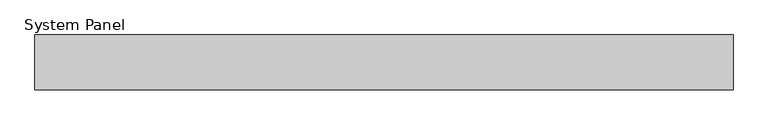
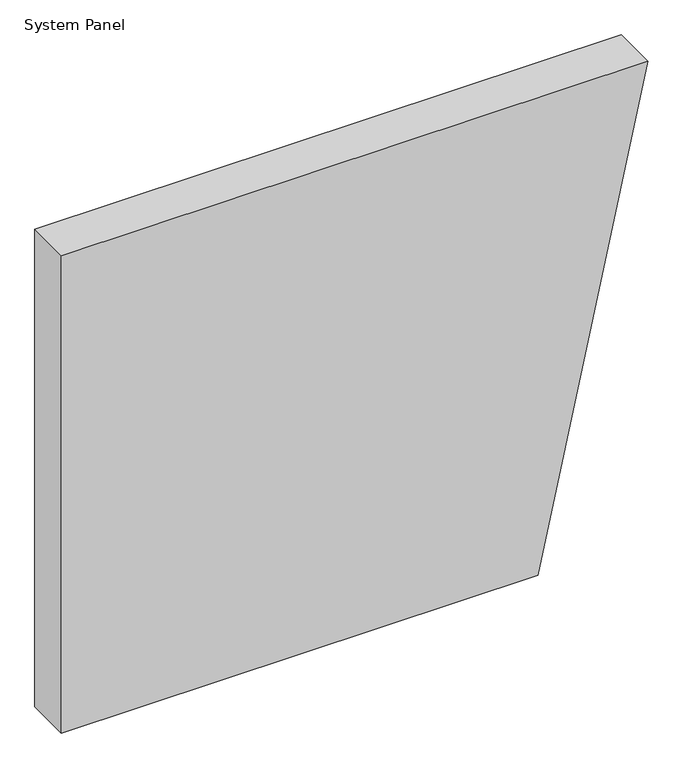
"""IFC4 building model written with IfcOpenShell, lengths in millimetres: plate geometry, System Panel : MetecnoPanel 100mm Horizontal - Plain Astro - PIR."""

from ifc_helpers import new_model, si_unit, frame, origin, place, context, project, spatial, polyline, outline, extrude, source, transform, mapped, element, save


def system_panel_4048a440(model_context):
    return source(origin(), model_context, "Body", "SweptSolid", [
        extrude(outline(polyline([(0.0, -639.1323567), (0.0, 400.0), (1100.0, 639.1323567), (1100.0, -639.1323567), (0.0, -639.1323567)])), frame((0.0, -100.0, 0.0), z_axis=(0.0, 1.0, 0.0), x_axis=(0.0, 0.0, 1.0)), (0.0, 0.0, 1.0), 100.0),
    ])


if __name__ == "__main__":
    model = new_model("IFC4")
    model_context = context("Model", 3, world=origin())
    ifc_project = project(units=[si_unit("LENGTHUNIT", "METRE", prefix="MILLI")], contexts=[model_context])
    site = spatial("IfcSite", under=ifc_project)
    building = spatial("IfcBuilding", under=site)
    placement = place(None, origin())
    system_panel_shape = system_panel_4048a440(model_context)
    element("IfcPlate", 1, ObjectType="System Panel : MetecnoPanel 100mm Horizontal - Plain Astro - PIR", at=placement, inside=building, context=model_context, shape_type="MappedRepresentation", body=[
        mapped(system_panel_shape, transform((0.0, 0.0, 0.0), x_axis=(1.0, 0.0, 0.0), y_axis=(0.0, 1.0, 0.0), z_axis=(0.0, 0.0, 1.0))),
    ])
    save(model, "model.ifc")
